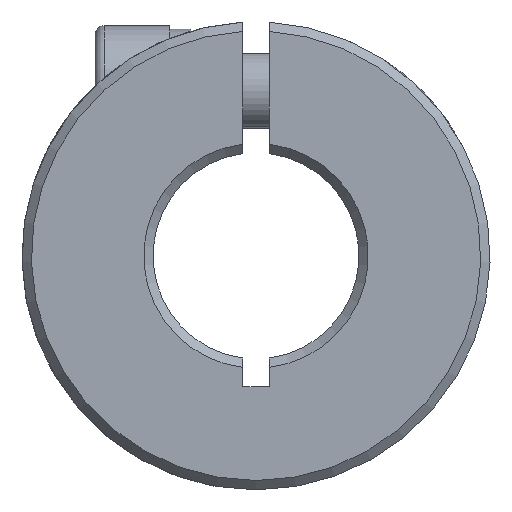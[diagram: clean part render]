
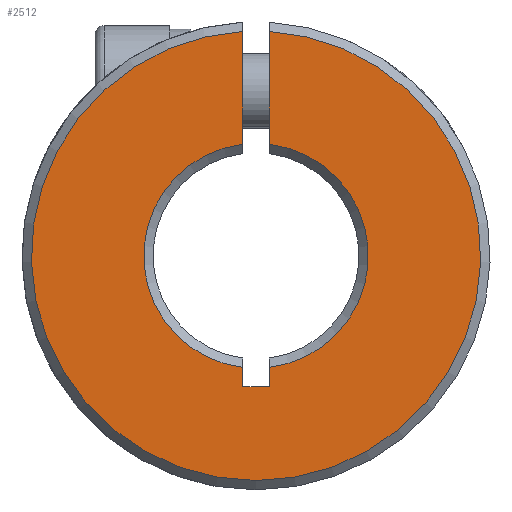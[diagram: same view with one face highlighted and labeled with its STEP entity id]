
A CAD part, front view. The second image highlights one B-rep face of the part: STEP entity #2512.
In plain terms, the highlighted planar face has unit normal (0, -1, 0).
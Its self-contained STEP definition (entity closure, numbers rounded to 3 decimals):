
#109 = VECTOR ( 'NONE', #2608, 1000. ) ;
#141 = CIRCLE ( 'NONE', #397, 12. ) ;
#196 = CARTESIAN_POINT ( 'NONE',  ( 0.7, 0.25, 5.959 ) ) ;
#245 = AXIS2_PLACEMENT_3D ( 'NONE', #433, #2027, #693 ) ;
#256 = ORIENTED_EDGE ( 'NONE', *, *, #1267, .T. ) ;
#260 = VERTEX_POINT ( 'NONE', #642 ) ;
#283 = CARTESIAN_POINT ( 'NONE',  ( 0.7, 0.25, -5.959 ) ) ;
#397 = AXIS2_PLACEMENT_3D ( 'NONE', #1645, #842, #3483 ) ;
#409 = DIRECTION ( 'NONE',  ( 0., 1., 0. ) ) ;
#419 = PLANE ( 'NONE',  #245 ) ;
#433 = CARTESIAN_POINT ( 'NONE',  ( 12.5, 0.25, -50. ) ) ;
#436 = DIRECTION ( 'NONE',  ( 0., 0., 1. ) ) ;
#447 = VERTEX_POINT ( 'NONE', #2479 ) ;
#504 = CARTESIAN_POINT ( 'NONE',  ( -0.7, 0.25, -7. ) ) ;
#536 = DIRECTION ( 'NONE',  ( 0., 0., 1. ) ) ;
#550 = ORIENTED_EDGE ( 'NONE', *, *, #3188, .F. ) ;
#611 = VECTOR ( 'NONE', #2522, 1000. ) ;
#642 = CARTESIAN_POINT ( 'NONE',  ( -0.7, 0.25, 11.98 ) ) ;
#693 = DIRECTION ( 'NONE',  ( 0., 0., 1. ) ) ;
#696 = LINE ( 'NONE', #2774, #611 ) ;
#766 = VERTEX_POINT ( 'NONE', #2197 ) ;
#780 = VERTEX_POINT ( 'NONE', #2745 ) ;
#834 = DIRECTION ( 'NONE',  ( 0., 0., 1. ) ) ;
#842 = DIRECTION ( 'NONE',  ( 0., -1., 0. ) ) ;
#943 = LINE ( 'NONE', #3197, #1157 ) ;
#965 = CARTESIAN_POINT ( 'NONE',  ( 0., 0.25, 0. ) ) ;
#1026 = DIRECTION ( 'NONE',  ( 0., 0., -1. ) ) ;
#1033 = VECTOR ( 'NONE', #834, 1000. ) ;
#1106 = CARTESIAN_POINT ( 'NONE',  ( 0.7, 0.25, -7. ) ) ;
#1157 = VECTOR ( 'NONE', #536, 1000. ) ;
#1191 = ORIENTED_EDGE ( 'NONE', *, *, #1655, .T. ) ;
#1248 = DIRECTION ( 'NONE',  ( 0., 1., 0. ) ) ;
#1267 = EDGE_CURVE ( 'NONE', #447, #2070, #2761, .T. ) ;
#1306 = VERTEX_POINT ( 'NONE', #196 ) ;
#1327 = VERTEX_POINT ( 'NONE', #1601 ) ;
#1336 = VECTOR ( 'NONE', #1026, 1000. ) ;
#1465 = VERTEX_POINT ( 'NONE', #283 ) ;
#1601 = CARTESIAN_POINT ( 'NONE',  ( 0.7, 0.25, 11.98 ) ) ;
#1640 = EDGE_CURVE ( 'NONE', #766, #780, #696, .T. ) ;
#1645 = CARTESIAN_POINT ( 'NONE',  ( 0., 0.25, 0. ) ) ;
#1655 = EDGE_CURVE ( 'NONE', #1306, #1465, #2672, .T. ) ;
#1736 = LINE ( 'NONE', #1106, #1033 ) ;
#1785 = ORIENTED_EDGE ( 'NONE', *, *, #2631, .T. ) ;
#1914 = LINE ( 'NONE', #504, #1336 ) ;
#1960 = FACE_OUTER_BOUND ( 'NONE', #3036, .T. ) ;
#1975 = ORIENTED_EDGE ( 'NONE', *, *, #1640, .F. ) ;
#2027 = DIRECTION ( 'NONE',  ( 0., 1., 0. ) ) ;
#2070 = VERTEX_POINT ( 'NONE', #2847 ) ;
#2132 = AXIS2_PLACEMENT_3D ( 'NONE', #965, #1248, #436 ) ;
#2197 = CARTESIAN_POINT ( 'NONE',  ( -0.7, 0.25, -7. ) ) ;
#2262 = CARTESIAN_POINT ( 'NONE',  ( 0., 0.25, 0. ) ) ;
#2320 = EDGE_CURVE ( 'NONE', #260, #2070, #1914, .T. ) ;
#2394 = EDGE_CURVE ( 'NONE', #447, #766, #2876, .T. ) ;
#2479 = CARTESIAN_POINT ( 'NONE',  ( -0.7, 0.25, -5.959 ) ) ;
#2512 = ADVANCED_FACE ( 'NONE', ( #1960 ), #419, .F. ) ;
#2522 = DIRECTION ( 'NONE',  ( 1., 0., 0. ) ) ;
#2608 = DIRECTION ( 'NONE',  ( 0., 0., -1. ) ) ;
#2631 = EDGE_CURVE ( 'NONE', #260, #1327, #141, .T. ) ;
#2672 = CIRCLE ( 'NONE', #2728, 6. ) ;
#2728 = AXIS2_PLACEMENT_3D ( 'NONE', #2262, #409, #3052 ) ;
#2745 = CARTESIAN_POINT ( 'NONE',  ( 0.7, 0.25, -7. ) ) ;
#2761 = CIRCLE ( 'NONE', #2132, 6. ) ;
#2774 = CARTESIAN_POINT ( 'NONE',  ( 0.7, 0.25, -7. ) ) ;
#2834 = ORIENTED_EDGE ( 'NONE', *, *, #2394, .F. ) ;
#2847 = CARTESIAN_POINT ( 'NONE',  ( -0.7, 0.25, 5.959 ) ) ;
#2876 = LINE ( 'NONE', #3103, #109 ) ;
#3036 = EDGE_LOOP ( 'NONE', ( #3037, #1191, #550, #1975, #2834, #256, #3460, #1785 ) ) ;
#3037 = ORIENTED_EDGE ( 'NONE', *, *, #3219, .F. ) ;
#3052 = DIRECTION ( 'NONE',  ( 0., 0., 1. ) ) ;
#3103 = CARTESIAN_POINT ( 'NONE',  ( -0.7, 0.25, -7. ) ) ;
#3188 = EDGE_CURVE ( 'NONE', #780, #1465, #1736, .T. ) ;
#3197 = CARTESIAN_POINT ( 'NONE',  ( 0.7, 0.25, -7. ) ) ;
#3219 = EDGE_CURVE ( 'NONE', #1306, #1327, #943, .T. ) ;
#3460 = ORIENTED_EDGE ( 'NONE', *, *, #2320, .F. ) ;
#3483 = DIRECTION ( 'NONE',  ( 0., 0., 1. ) ) ;
